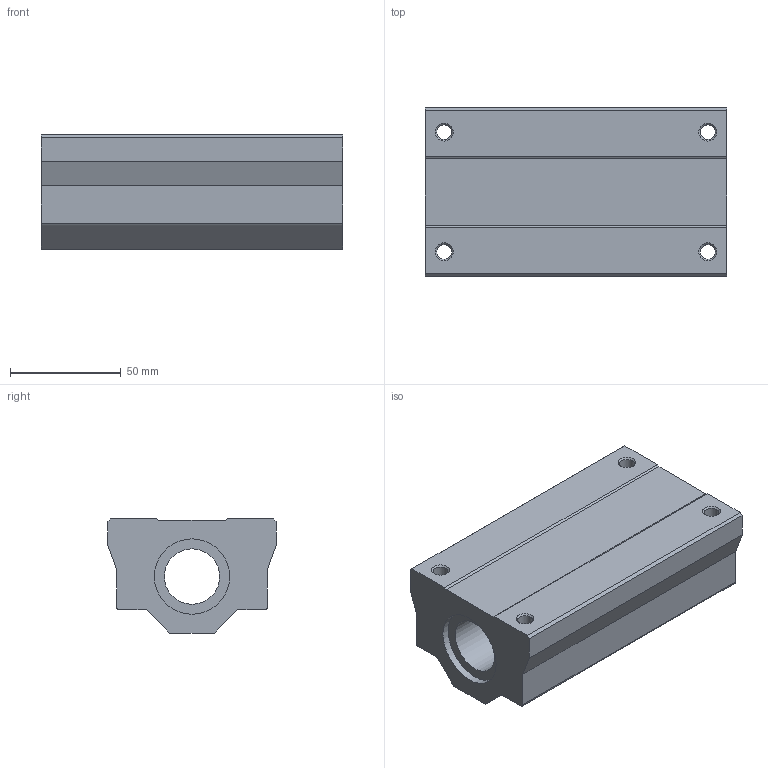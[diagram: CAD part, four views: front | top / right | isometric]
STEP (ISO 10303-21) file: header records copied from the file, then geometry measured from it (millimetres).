
FILE_DESCRIPTION( ( 'Unknown' ), '1' );
FILE_NAME( 'D:/累诀/己绕皋墨飘肺葱胶/11-04-06_档搁累己/01_府聪绢何教/SC W/SC 25W.stp', 'Unknown', ( 'Unknown' ), ( 'Unknown' ), 'PSStep 11.0', 'Unknown', ' ' );
FILE_SCHEMA( ( 'AUTOMOTIVE_DESIGN { 1 0 10303 214 1 1 1 1 }' ) );
Length unit declared in the file: millimetre
Products named in the file (1): 1
Bounding box: 136 x 76 x 51.5 mm (x, y, z)
Volume: 364028.4 mm3; surface area: 51289.4 mm2
Topology: 1 solids, 1 shells, 39 faces, 108 edges, 73 vertices
Faces by surface type: plane 22, cylinder 13, cone 4
Full cylindrical faces by diameter (mm): 6.647 x8, 25 x1, 34 x2
Entity records: 1426 total; most frequent: DIRECTION 188, CARTESIAN_POINT 184, ORIENTED_EDGE 164, EDGE_CURVE 82, AXIS2_PLACEMENT_3D 66, EDGE_LOOP 66, VERTEX_POINT 62, LINE 56
